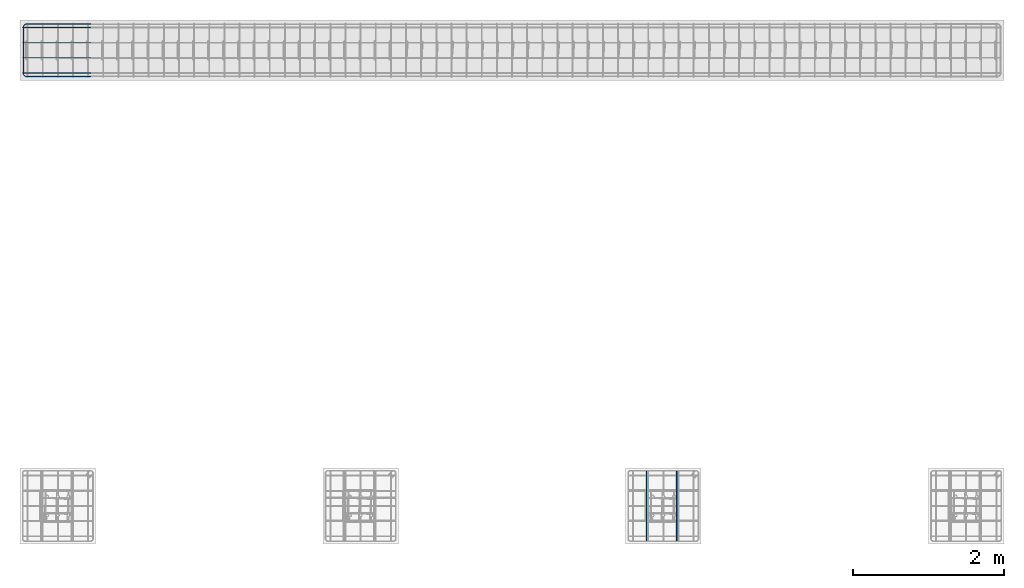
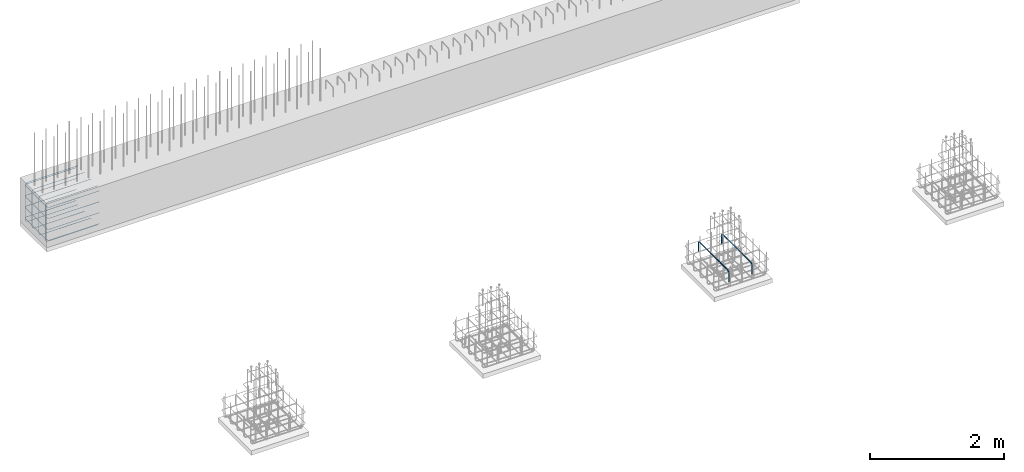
# One storey, part 5 of 12: 3 reinforcing bars.
"""IFC4X3_ADD2 building model written with IfcOpenShell, lengths in millimetres."""

from ifc_helpers import new_model, entity, si_unit, converted_unit, derived_unit, direction, frame, origin, place, context, subcontext, project, spatial, material, type_object, element, save


model = new_model("IFC4X3_ADD2")

# Units and contexts
model_context = context("Model", 3, precision=0.01, world=origin(), true_north=direction((6.123233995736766e-17, 1.0)))
plan_context = context("Plan", 3, precision=0.01, world=origin(), true_north=direction((6.123233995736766e-17, 1.0)))
body_context = subcontext(model_context, "Body", "Model", "MODEL_VIEW")
ifc_project = project(units=[si_unit("LENGTHUNIT", "METRE", prefix="MILLI"), converted_unit("PLANEANGLEUNIT", "DEGREE", entity("IfcPlaneAngleMeasure", 0.017453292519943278), si_unit("PLANEANGLEUNIT", "RADIAN"), dimensions=[0, 0, 0, 0, 0, 0, 0]), si_unit("AREAUNIT", "SQUARE_METRE"), si_unit("VOLUMEUNIT", "CUBIC_METRE"), derived_unit("THERMALTRANSMITTANCEUNIT", [(si_unit("MASSUNIT", "GRAM", prefix="KILO"), 1), (si_unit("THERMODYNAMICTEMPERATUREUNIT", "KELVIN"), -1), (si_unit("TIMEUNIT", "SECOND"), -3)]), derived_unit("USERDEFINED", [(si_unit("MASSUNIT", "GRAM", prefix="KILO"), 1), (si_unit("THERMODYNAMICTEMPERATUREUNIT", "KELVIN"), -1), (si_unit("TIMEUNIT", "SECOND"), -2)]), derived_unit("THERMALRESISTANCEUNIT", [(si_unit("MASSUNIT", "GRAM", prefix="KILO"), -1), (si_unit("TIMEUNIT", "SECOND"), 3), (si_unit("THERMODYNAMICTEMPERATUREUNIT", "KELVIN"), 1)]), si_unit("MASSUNIT", "GRAM", prefix="KILO"), derived_unit("MOMENTOFINERTIAUNIT", [(si_unit("LENGTHUNIT", "METRE"), 4)]), derived_unit("LINEARFORCEUNIT", [(si_unit("MASSUNIT", "GRAM", prefix="KILO"), 1), (si_unit("TIMEUNIT", "SECOND"), -2)]), derived_unit("WARPINGCONSTANTUNIT", [(si_unit("LENGTHUNIT", "METRE"), 6)]), si_unit("PRESSUREUNIT", "PASCAL"), derived_unit("MASSDENSITYUNIT", [(si_unit("MASSUNIT", "GRAM", prefix="KILO"), 1), (si_unit("LENGTHUNIT", "METRE"), -3)]), derived_unit("MODULUSOFELASTICITYUNIT", [(si_unit("MASSUNIT", "GRAM", prefix="KILO"), 1), (si_unit("TIMEUNIT", "SECOND"), -2), (si_unit("LENGTHUNIT", "METRE"), -1)]), derived_unit("THERMALEXPANSIONCOEFFICIENTUNIT", [(si_unit("THERMODYNAMICTEMPERATUREUNIT", "KELVIN"), -1)]), derived_unit("VAPORPERMEABILITYUNIT", [(si_unit("LENGTHUNIT", "METRE"), -1), (si_unit("TIMEUNIT", "SECOND"), 1)]), derived_unit("USERDEFINED", [(si_unit("MASSUNIT", "GRAM", prefix="KILO"), 1), (si_unit("TIMEUNIT", "SECOND"), -3), (si_unit("LENGTHUNIT", "METRE"), 3), (si_unit("ELECTRICCURRENTUNIT", "AMPERE"), -2)]), derived_unit("SPECIFICHEATCAPACITYUNIT", [(si_unit("THERMODYNAMICTEMPERATUREUNIT", "KELVIN"), -1), (si_unit("TIMEUNIT", "SECOND"), -2), (si_unit("LENGTHUNIT", "METRE"), 2)]), derived_unit("THERMALCONDUCTANCEUNIT", [(si_unit("MASSUNIT", "GRAM", prefix="KILO"), 1), (si_unit("THERMODYNAMICTEMPERATUREUNIT", "KELVIN"), -1), (si_unit("TIMEUNIT", "SECOND"), -3), (si_unit("LENGTHUNIT", "METRE"), 1)])], contexts=[model_context, plan_context])

# Site, building, storey
site_placement = place(None, origin())
site = spatial("IfcSite", under=ifc_project, at=site_placement, Name="Default", CompositionType="ELEMENT")
building_placement = place(site_placement, origin())
building = spatial("IfcBuilding", under=site, at=building_placement, Name="Complex structure", CompositionType="ELEMENT")
storey_placement = place(building_placement, frame((0.0, 0.0, -1200.0)))
storey = spatial("IfcBuildingStorey", under=building, at=storey_placement, Name="Level -03", CompositionType="ELEMENT", Elevation=-1200.0)

# Reinforcing bars
ifc_material = material(Name="Steel Rebar - B500A, B or C", Category="Unassigned")
reinforcing_bar_type = type_object("IfcReinforcingBarType", Name="Rebar Bar:10mm", PredefinedType="NOTDEFINED")
reinforcing_bar_1_placement = place(storey_placement, origin())
ifc_direction_1 = entity("IfcDirection", [1.0, 0.0, 0.0])
ifc_direction_2 = entity("IfcDirection", [1.0, 0.0, 0.0])
element("IfcReinforcingBar", 1, at=reinforcing_bar_1_placement, inside=storey, type_object=reinforcing_bar_type, material=ifc_material, Name="Rebar Bar:10mm : Shape 21", ObjectType="Rebar Bar:10mm", context=body_context, shape_type="AdvancedSweptSolid", body=[
    entity("IfcSweptDiskSolid", entity("IfcCompositeCurve", [entity("IfcCompositeCurveSegment", "CONTINUOUS", True, entity("IfcPolyline", [entity("IfcCartesianPoint", [-4969.871550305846, -827.8667039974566, 167.0]), entity("IfcCartesianPoint", [-4969.871550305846, -827.8667039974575, 315.0])])), entity("IfcCompositeCurveSegment", "CONTINUOUS", True, entity("IfcTrimmedCurve", entity("IfcCircle", entity("IfcAxis2Placement3D", entity("IfcCartesianPoint", [-4969.871550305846, -872.8667039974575, 315.0]), ifc_direction_1, entity("IfcDirection", [0.0, 0.0, 1.0])), 45.0), [entity("IfcParameterValue", 269.9999999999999)], [entity("IfcParameterValue", 360.00000000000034)], True, "PARAMETER")), entity("IfcCompositeCurveSegment", "CONTINUOUS", True, entity("IfcPolyline", [entity("IfcCartesianPoint", [-4969.871550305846, -872.8667039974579, 360.0]), entity("IfcCartesianPoint", [-4969.871550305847, -1692.866703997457, 360.0])])), entity("IfcCompositeCurveSegment", "CONTINUOUS", True, entity("IfcTrimmedCurve", entity("IfcCircle", entity("IfcAxis2Placement3D", entity("IfcCartesianPoint", [-4969.871550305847, -1692.8667039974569, 315.0]), ifc_direction_1, entity("IfcDirection", [0.0, -1.0, 0.0])), 45.0), [entity("IfcParameterValue", 269.9999999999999)], [entity("IfcParameterValue", 360.00000000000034)], True, "PARAMETER")), entity("IfcCompositeCurveSegment", "CONTINUOUS", True, entity("IfcPolyline", [entity("IfcCartesianPoint", [-4969.871550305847, -1737.8667039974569, 315.0]), entity("IfcCartesianPoint", [-4969.871550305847, -1737.866703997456, 167.0])]))], False), 5.0, None, 0.0, 183.00000000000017),
    entity("IfcSweptDiskSolid", entity("IfcCompositeCurve", [entity("IfcCompositeCurveSegment", "CONTINUOUS", True, entity("IfcPolyline", [entity("IfcCartesianPoint", [-5369.871550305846, -827.8667039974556, 167.0]), entity("IfcCartesianPoint", [-5369.871550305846, -827.8667039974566, 315.0])])), entity("IfcCompositeCurveSegment", "CONTINUOUS", True, entity("IfcTrimmedCurve", entity("IfcCircle", entity("IfcAxis2Placement3D", entity("IfcCartesianPoint", [-5369.871550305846, -872.8667039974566, 315.0]), ifc_direction_2, entity("IfcDirection", [0.0, 0.0, 1.0])), 45.0), [entity("IfcParameterValue", 269.9999999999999)], [entity("IfcParameterValue", 360.00000000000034)], True, "PARAMETER")), entity("IfcCompositeCurveSegment", "CONTINUOUS", True, entity("IfcPolyline", [entity("IfcCartesianPoint", [-5369.871550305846, -872.866703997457, 360.0]), entity("IfcCartesianPoint", [-5369.871550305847, -1692.8667039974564, 360.0])])), entity("IfcCompositeCurveSegment", "CONTINUOUS", True, entity("IfcTrimmedCurve", entity("IfcCircle", entity("IfcAxis2Placement3D", entity("IfcCartesianPoint", [-5369.871550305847, -1692.8667039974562, 315.0]), ifc_direction_2, entity("IfcDirection", [0.0, -1.0, 0.0])), 45.0), [entity("IfcParameterValue", 269.9999999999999)], [entity("IfcParameterValue", 360.00000000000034)], True, "PARAMETER")), entity("IfcCompositeCurveSegment", "CONTINUOUS", True, entity("IfcPolyline", [entity("IfcCartesianPoint", [-5369.871550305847, -1737.8667039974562, 315.0]), entity("IfcCartesianPoint", [-5369.871550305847, -1737.866703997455, 167.0])]))], False), 5.0, None, 0.0, 183.00000000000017),
])
reinforcing_bar_2_placement = place(storey_placement, origin())
ifc_direction_3 = entity("IfcDirection", [0.0, 1.0, 0.0])
ifc_direction_4 = entity("IfcDirection", [0.0, 1.0, 0.0])
ifc_direction_5 = entity("IfcDirection", [0.0, 1.0, 0.0])
ifc_direction_6 = entity("IfcDirection", [0.0, 1.0, 0.0])
element("IfcReinforcingBar", 2, at=reinforcing_bar_2_placement, inside=storey, type_object=reinforcing_bar_type, material=ifc_material, Name="Rebar Bar:10mm : Shape 21", ObjectType="Rebar Bar:10mm", context=body_context, shape_type="AdvancedSweptSolid", body=[
    entity("IfcSweptDiskSolid", entity("IfcCompositeCurve", [entity("IfcCompositeCurveSegment", "CONTINUOUS", True, entity("IfcPolyline", [entity("IfcCartesianPoint", [-12705.221550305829, 5037.133296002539, 33.12656114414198]), entity("IfcCartesianPoint", [-13565.221550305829, 5037.13329600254, 33.12656114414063])])), entity("IfcCompositeCurveSegment", "CONTINUOUS", True, entity("IfcTrimmedCurve", entity("IfcCircle", entity("IfcAxis2Placement3D", entity("IfcCartesianPoint", [-13565.221550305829, 5037.13329600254, 78.12656114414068]), ifc_direction_3, entity("IfcDirection", [-1.0, 0.0, 0.0])), 45.0), [entity("IfcParameterValue", 269.9999999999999)], [entity("IfcParameterValue", 360.00000000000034)], True, "PARAMETER")), entity("IfcCompositeCurveSegment", "CONTINUOUS", True, entity("IfcPolyline", [entity("IfcCartesianPoint", [-13610.221550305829, 5037.13329600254, 78.12656114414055]), entity("IfcCartesianPoint", [-13610.221550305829, 5037.133296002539, 700.0])])), entity("IfcCompositeCurveSegment", "CONTINUOUS", True, entity("IfcTrimmedCurve", entity("IfcCircle", entity("IfcAxis2Placement3D", entity("IfcCartesianPoint", [-13565.221550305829, 5037.133296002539, 700.0]), ifc_direction_3, entity("IfcDirection", [0.0, 0.0, 1.0])), 45.0), [entity("IfcParameterValue", 269.9999999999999)], [entity("IfcParameterValue", 360.00000000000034)], True, "PARAMETER")), entity("IfcCompositeCurveSegment", "CONTINUOUS", True, entity("IfcPolyline", [entity("IfcCartesianPoint", [-13565.22155030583, 5037.133296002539, 745.0]), entity("IfcCartesianPoint", [-12705.221550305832, 5037.1332960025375, 745.0])]))], False), 5.0, None, 0.0, 183.00000000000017),
    entity("IfcSweptDiskSolid", entity("IfcCompositeCurve", [entity("IfcCompositeCurveSegment", "CONTINUOUS", True, entity("IfcPolyline", [entity("IfcCartesianPoint", [-12705.221550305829, 4837.133296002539, 33.126561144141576]), entity("IfcCartesianPoint", [-13565.221550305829, 4837.13329600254, 33.12656114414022])])), entity("IfcCompositeCurveSegment", "CONTINUOUS", True, entity("IfcTrimmedCurve", entity("IfcCircle", entity("IfcAxis2Placement3D", entity("IfcCartesianPoint", [-13565.221550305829, 4837.13329600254, 78.12656114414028]), ifc_direction_4, entity("IfcDirection", [-1.0, 0.0, 0.0])), 45.0), [entity("IfcParameterValue", 269.9999999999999)], [entity("IfcParameterValue", 360.00000000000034)], True, "PARAMETER")), entity("IfcCompositeCurveSegment", "CONTINUOUS", True, entity("IfcPolyline", [entity("IfcCartesianPoint", [-13610.221550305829, 4837.13329600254, 78.12656114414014]), entity("IfcCartesianPoint", [-13610.221550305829, 4837.133296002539, 700.0])])), entity("IfcCompositeCurveSegment", "CONTINUOUS", True, entity("IfcTrimmedCurve", entity("IfcCircle", entity("IfcAxis2Placement3D", entity("IfcCartesianPoint", [-13565.221550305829, 4837.133296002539, 700.0]), ifc_direction_4, entity("IfcDirection", [0.0, 0.0, 1.0])), 45.0), [entity("IfcParameterValue", 269.9999999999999)], [entity("IfcParameterValue", 360.00000000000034)], True, "PARAMETER")), entity("IfcCompositeCurveSegment", "CONTINUOUS", True, entity("IfcPolyline", [entity("IfcCartesianPoint", [-13565.22155030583, 4837.133296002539, 745.0]), entity("IfcCartesianPoint", [-12705.221550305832, 4837.1332960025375, 745.0])]))], False), 5.0, None, 0.0, 183.00000000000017),
    entity("IfcSweptDiskSolid", entity("IfcCompositeCurve", [entity("IfcCompositeCurveSegment", "CONTINUOUS", True, entity("IfcPolyline", [entity("IfcCartesianPoint", [-12705.221550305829, 4637.133296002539, 33.12656114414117]), entity("IfcCartesianPoint", [-13565.221550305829, 4637.13329600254, 33.126561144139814])])), entity("IfcCompositeCurveSegment", "CONTINUOUS", True, entity("IfcTrimmedCurve", entity("IfcCircle", entity("IfcAxis2Placement3D", entity("IfcCartesianPoint", [-13565.221550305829, 4637.13329600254, 78.12656114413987]), ifc_direction_5, entity("IfcDirection", [-1.0, 0.0, 0.0])), 45.0), [entity("IfcParameterValue", 269.9999999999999)], [entity("IfcParameterValue", 360.00000000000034)], True, "PARAMETER")), entity("IfcCompositeCurveSegment", "CONTINUOUS", True, entity("IfcPolyline", [entity("IfcCartesianPoint", [-13610.221550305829, 4637.13329600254, 78.12656114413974]), entity("IfcCartesianPoint", [-13610.221550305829, 4637.133296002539, 700.0])])), entity("IfcCompositeCurveSegment", "CONTINUOUS", True, entity("IfcTrimmedCurve", entity("IfcCircle", entity("IfcAxis2Placement3D", entity("IfcCartesianPoint", [-13565.221550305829, 4637.133296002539, 700.0]), ifc_direction_5, entity("IfcDirection", [0.0, 0.0, 1.0])), 45.0), [entity("IfcParameterValue", 269.9999999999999)], [entity("IfcParameterValue", 360.00000000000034)], True, "PARAMETER")), entity("IfcCompositeCurveSegment", "CONTINUOUS", True, entity("IfcPolyline", [entity("IfcCartesianPoint", [-13565.22155030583, 4637.133296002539, 745.0]), entity("IfcCartesianPoint", [-12705.221550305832, 4637.1332960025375, 745.0])]))], False), 5.0, None, 0.0, 183.00000000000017),
    entity("IfcSweptDiskSolid", entity("IfcCompositeCurve", [entity("IfcCompositeCurveSegment", "CONTINUOUS", True, entity("IfcPolyline", [entity("IfcCartesianPoint", [-12705.221550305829, 4437.133296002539, 33.1265611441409]), entity("IfcCartesianPoint", [-13565.221550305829, 4437.13329600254, 33.126561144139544])])), entity("IfcCompositeCurveSegment", "CONTINUOUS", True, entity("IfcTrimmedCurve", entity("IfcCircle", entity("IfcAxis2Placement3D", entity("IfcCartesianPoint", [-13565.221550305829, 4437.13329600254, 78.1265611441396]), ifc_direction_6, entity("IfcDirection", [-1.0, 0.0, 0.0])), 45.0), [entity("IfcParameterValue", 269.9999999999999)], [entity("IfcParameterValue", 360.00000000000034)], True, "PARAMETER")), entity("IfcCompositeCurveSegment", "CONTINUOUS", True, entity("IfcPolyline", [entity("IfcCartesianPoint", [-13610.221550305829, 4437.13329600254, 78.12656114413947]), entity("IfcCartesianPoint", [-13610.221550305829, 4437.133296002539, 700.0])])), entity("IfcCompositeCurveSegment", "CONTINUOUS", True, entity("IfcTrimmedCurve", entity("IfcCircle", entity("IfcAxis2Placement3D", entity("IfcCartesianPoint", [-13565.221550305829, 4437.133296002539, 700.0]), ifc_direction_6, entity("IfcDirection", [0.0, 0.0, 1.0])), 45.0), [entity("IfcParameterValue", 269.9999999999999)], [entity("IfcParameterValue", 360.00000000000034)], True, "PARAMETER")), entity("IfcCompositeCurveSegment", "CONTINUOUS", True, entity("IfcPolyline", [entity("IfcCartesianPoint", [-13565.22155030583, 4437.133296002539, 745.0]), entity("IfcCartesianPoint", [-12705.221550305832, 4437.1332960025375, 745.0])]))], False), 5.0, None, 0.0, 183.00000000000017),
])
reinforcing_bar_3_placement = place(storey_placement, origin())
ifc_direction_7 = entity("IfcDirection", [0.0, 0.0, 1.0])
ifc_direction_8 = entity("IfcDirection", [0.0, 0.0, 1.0])
ifc_direction_9 = entity("IfcDirection", [0.0, 0.0, 1.0])
ifc_direction_10 = entity("IfcDirection", [0.0, 0.0, 1.0])
element("IfcReinforcingBar", 3, at=reinforcing_bar_3_placement, inside=storey, type_object=reinforcing_bar_type, material=ifc_material, Name="Rebar Bar:10mm : Shape 21", ObjectType="Rebar Bar:10mm", context=body_context, shape_type="AdvancedSweptSolid", body=[
    entity("IfcSweptDiskSolid", entity("IfcCompositeCurve", [entity("IfcCompositeCurveSegment", "CONTINUOUS", True, entity("IfcPolyline", [entity("IfcCartesianPoint", [-12705.221550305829, 5085.133296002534, 681.1265611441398]), entity("IfcCartesianPoint", [-13555.221550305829, 5085.133296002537, 681.1265611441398])])), entity("IfcCompositeCurveSegment", "CONTINUOUS", True, entity("IfcTrimmedCurve", entity("IfcCircle", entity("IfcAxis2Placement3D", entity("IfcCartesianPoint", [-13555.221550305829, 5040.1332960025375, 681.1265611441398]), ifc_direction_7, entity("IfcDirection", [-1.0, 0.0, 0.0])), 45.0), [entity("IfcParameterValue", 269.9999999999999)], [entity("IfcParameterValue", 360.00000000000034)], True, "PARAMETER")), entity("IfcCompositeCurveSegment", "CONTINUOUS", True, entity("IfcPolyline", [entity("IfcCartesianPoint", [-13600.221550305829, 5040.1332960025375, 681.1265611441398]), entity("IfcCartesianPoint", [-13600.221550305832, 4434.133296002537, 681.1265611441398])])), entity("IfcCompositeCurveSegment", "CONTINUOUS", True, entity("IfcTrimmedCurve", entity("IfcCircle", entity("IfcAxis2Placement3D", entity("IfcCartesianPoint", [-13555.22155030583, 4434.133296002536, 681.1265611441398]), ifc_direction_7, entity("IfcDirection", [0.0, -1.0, 0.0])), 45.0), [entity("IfcParameterValue", 269.9999999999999)], [entity("IfcParameterValue", 360.00000000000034)], True, "PARAMETER")), entity("IfcCompositeCurveSegment", "CONTINUOUS", True, entity("IfcPolyline", [entity("IfcCartesianPoint", [-13555.22155030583, 4389.133296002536, 681.1265611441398]), entity("IfcCartesianPoint", [-12705.221550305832, 4389.133296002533, 681.1265611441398])]))], False), 5.0, None, 0.0, 183.00000000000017),
    entity("IfcSweptDiskSolid", entity("IfcCompositeCurve", [entity("IfcCompositeCurveSegment", "CONTINUOUS", True, entity("IfcPolyline", [entity("IfcCartesianPoint", [-12705.221550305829, 5085.133296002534, 481.12656114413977]), entity("IfcCartesianPoint", [-13555.221550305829, 5085.133296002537, 481.12656114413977])])), entity("IfcCompositeCurveSegment", "CONTINUOUS", True, entity("IfcTrimmedCurve", entity("IfcCircle", entity("IfcAxis2Placement3D", entity("IfcCartesianPoint", [-13555.221550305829, 5040.1332960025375, 481.12656114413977]), ifc_direction_8, entity("IfcDirection", [-1.0, 0.0, 0.0])), 45.0), [entity("IfcParameterValue", 269.9999999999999)], [entity("IfcParameterValue", 360.00000000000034)], True, "PARAMETER")), entity("IfcCompositeCurveSegment", "CONTINUOUS", True, entity("IfcPolyline", [entity("IfcCartesianPoint", [-13600.221550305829, 5040.1332960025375, 481.12656114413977]), entity("IfcCartesianPoint", [-13600.221550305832, 4434.133296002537, 481.12656114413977])])), entity("IfcCompositeCurveSegment", "CONTINUOUS", True, entity("IfcTrimmedCurve", entity("IfcCircle", entity("IfcAxis2Placement3D", entity("IfcCartesianPoint", [-13555.22155030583, 4434.133296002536, 481.12656114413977]), ifc_direction_8, entity("IfcDirection", [0.0, -1.0, 0.0])), 45.0), [entity("IfcParameterValue", 269.9999999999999)], [entity("IfcParameterValue", 360.00000000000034)], True, "PARAMETER")), entity("IfcCompositeCurveSegment", "CONTINUOUS", True, entity("IfcPolyline", [entity("IfcCartesianPoint", [-13555.22155030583, 4389.133296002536, 481.12656114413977]), entity("IfcCartesianPoint", [-12705.221550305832, 4389.133296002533, 481.12656114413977])]))], False), 5.0, None, 0.0, 183.00000000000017),
    entity("IfcSweptDiskSolid", entity("IfcCompositeCurve", [entity("IfcCompositeCurveSegment", "CONTINUOUS", True, entity("IfcPolyline", [entity("IfcCartesianPoint", [-12705.221550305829, 5085.133296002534, 281.12656114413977]), entity("IfcCartesianPoint", [-13555.221550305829, 5085.133296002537, 281.12656114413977])])), entity("IfcCompositeCurveSegment", "CONTINUOUS", True, entity("IfcTrimmedCurve", entity("IfcCircle", entity("IfcAxis2Placement3D", entity("IfcCartesianPoint", [-13555.221550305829, 5040.1332960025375, 281.12656114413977]), ifc_direction_9, entity("IfcDirection", [-1.0, 0.0, 0.0])), 45.0), [entity("IfcParameterValue", 269.9999999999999)], [entity("IfcParameterValue", 360.00000000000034)], True, "PARAMETER")), entity("IfcCompositeCurveSegment", "CONTINUOUS", True, entity("IfcPolyline", [entity("IfcCartesianPoint", [-13600.221550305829, 5040.1332960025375, 281.12656114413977]), entity("IfcCartesianPoint", [-13600.221550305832, 4434.133296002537, 281.12656114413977])])), entity("IfcCompositeCurveSegment", "CONTINUOUS", True, entity("IfcTrimmedCurve", entity("IfcCircle", entity("IfcAxis2Placement3D", entity("IfcCartesianPoint", [-13555.22155030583, 4434.133296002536, 281.12656114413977]), ifc_direction_9, entity("IfcDirection", [0.0, -1.0, 0.0])), 45.0), [entity("IfcParameterValue", 269.9999999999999)], [entity("IfcParameterValue", 360.00000000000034)], True, "PARAMETER")), entity("IfcCompositeCurveSegment", "CONTINUOUS", True, entity("IfcPolyline", [entity("IfcCartesianPoint", [-13555.22155030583, 4389.133296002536, 281.12656114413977]), entity("IfcCartesianPoint", [-12705.221550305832, 4389.133296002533, 281.12656114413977])]))], False), 5.0, None, 0.0, 183.00000000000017),
    entity("IfcSweptDiskSolid", entity("IfcCompositeCurve", [entity("IfcCompositeCurveSegment", "CONTINUOUS", True, entity("IfcPolyline", [entity("IfcCartesianPoint", [-12705.221550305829, 5085.133296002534, 81.12656114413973]), entity("IfcCartesianPoint", [-13555.221550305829, 5085.133296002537, 81.12656114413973])])), entity("IfcCompositeCurveSegment", "CONTINUOUS", True, entity("IfcTrimmedCurve", entity("IfcCircle", entity("IfcAxis2Placement3D", entity("IfcCartesianPoint", [-13555.221550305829, 5040.1332960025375, 81.12656114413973]), ifc_direction_10, entity("IfcDirection", [-1.0, 0.0, 0.0])), 45.0), [entity("IfcParameterValue", 269.9999999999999)], [entity("IfcParameterValue", 360.00000000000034)], True, "PARAMETER")), entity("IfcCompositeCurveSegment", "CONTINUOUS", True, entity("IfcPolyline", [entity("IfcCartesianPoint", [-13600.221550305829, 5040.1332960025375, 81.12656114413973]), entity("IfcCartesianPoint", [-13600.221550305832, 4434.133296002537, 81.12656114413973])])), entity("IfcCompositeCurveSegment", "CONTINUOUS", True, entity("IfcTrimmedCurve", entity("IfcCircle", entity("IfcAxis2Placement3D", entity("IfcCartesianPoint", [-13555.22155030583, 4434.133296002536, 81.12656114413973]), ifc_direction_10, entity("IfcDirection", [0.0, -1.0, 0.0])), 45.0), [entity("IfcParameterValue", 269.9999999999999)], [entity("IfcParameterValue", 360.00000000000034)], True, "PARAMETER")), entity("IfcCompositeCurveSegment", "CONTINUOUS", True, entity("IfcPolyline", [entity("IfcCartesianPoint", [-13555.22155030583, 4389.133296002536, 81.12656114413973]), entity("IfcCartesianPoint", [-12705.221550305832, 4389.133296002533, 81.12656114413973])]))], False), 5.0, None, 0.0, 183.00000000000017),
])

save(model, "model.ifc")
